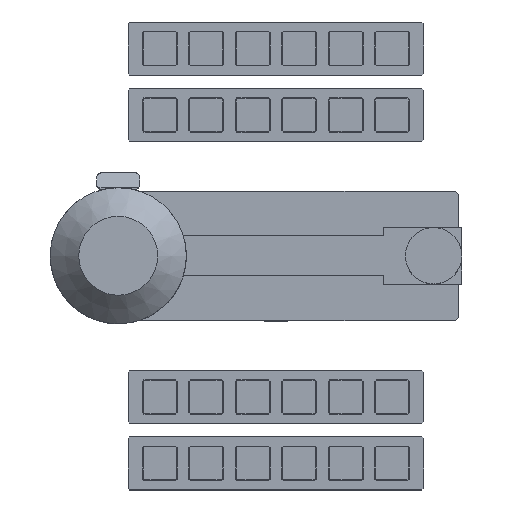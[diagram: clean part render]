
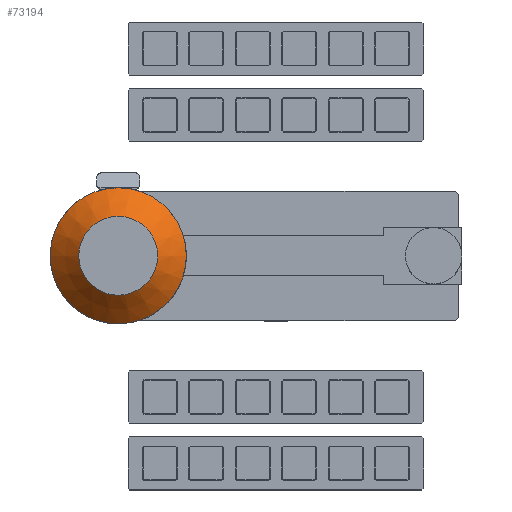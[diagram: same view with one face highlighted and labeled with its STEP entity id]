
A CAD part, top view. The second image highlights one B-rep face of the part: STEP entity #73194.
In plain terms, the highlighted conical face has half-angle 45 degrees and reference radius 41 mm.
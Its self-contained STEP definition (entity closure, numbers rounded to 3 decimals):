
#72256 = CYLINDRICAL_SURFACE('',#72257,41.);
#72257 = AXIS2_PLACEMENT_3D('',#72258,#72259,#72260);
#72258 = CARTESIAN_POINT('',(-95.,0.,8.4));
#72259 = DIRECTION('',(0.,0.,1.));
#72260 = DIRECTION('',(1.,0.,-0.));
#72336 = VERTEX_POINT('',#72337);
#72337 = CARTESIAN_POINT('',(-54.,0.,75.2));
#72358 = EDGE_CURVE('',#72359,#72336,#72361,.T.);
#72359 = VERTEX_POINT('',#72360);
#72360 = CARTESIAN_POINT('',(-95.,41.,75.2));
#72361 = SURFACE_CURVE('',#72362,(#72367,#72374),.PCURVE_S1.);
#72362 = CIRCLE('',#72363,41.);
#72363 = AXIS2_PLACEMENT_3D('',#72364,#72365,#72366);
#72364 = CARTESIAN_POINT('',(-95.,0.,75.2));
#72365 = DIRECTION('',(0.,0.,1.));
#72366 = DIRECTION('',(1.,0.,-0.));
#72367 = PCURVE('',#72256,#72368);
#72368 = DEFINITIONAL_REPRESENTATION('',(#72369),#72373);
#72369 = LINE('',#72370,#72371);
#72370 = CARTESIAN_POINT('',(0.,66.8));
#72371 = VECTOR('',#72372,1.);
#72372 = DIRECTION('',(1.,0.));
#72373 = ( GEOMETRIC_REPRESENTATION_CONTEXT(2) 
PARAMETRIC_REPRESENTATION_CONTEXT() REPRESENTATION_CONTEXT('2D SPACE',''
  ) );
#72374 = PCURVE('',#72375,#72380);
#72375 = CONICAL_SURFACE('',#72376,41.,0.785);
#72376 = AXIS2_PLACEMENT_3D('',#72377,#72378,#72379);
#72377 = CARTESIAN_POINT('',(-95.,0.,75.2));
#72378 = DIRECTION('',(-0.,-0.,-1.));
#72379 = DIRECTION('',(1.,0.,-0.));
#72380 = DEFINITIONAL_REPRESENTATION('',(#72381),#72384);
#72381 = B_SPLINE_CURVE_WITH_KNOTS('',1,(#72382,#72383),.UNSPECIFIED.,
  .F.,.F.,(2,2),(0.,6.283),.PIECEWISE_BEZIER_KNOTS.);
#72382 = CARTESIAN_POINT('',(0.,0.));
#72383 = CARTESIAN_POINT('',(-6.283,0.));
#72384 = ( GEOMETRIC_REPRESENTATION_CONTEXT(2) 
PARAMETRIC_REPRESENTATION_CONTEXT() REPRESENTATION_CONTEXT('2D SPACE',''
  ) );
#72386 = EDGE_CURVE('',#72336,#72359,#72387,.T.);
#72387 = SURFACE_CURVE('',#72388,(#72393,#72400),.PCURVE_S1.);
#72388 = CIRCLE('',#72389,41.);
#72389 = AXIS2_PLACEMENT_3D('',#72390,#72391,#72392);
#72390 = CARTESIAN_POINT('',(-95.,0.,75.2));
#72391 = DIRECTION('',(0.,0.,1.));
#72392 = DIRECTION('',(1.,0.,-0.));
#72393 = PCURVE('',#72256,#72394);
#72394 = DEFINITIONAL_REPRESENTATION('',(#72395),#72399);
#72395 = LINE('',#72396,#72397);
#72396 = CARTESIAN_POINT('',(0.,66.8));
#72397 = VECTOR('',#72398,1.);
#72398 = DIRECTION('',(1.,0.));
#72399 = ( GEOMETRIC_REPRESENTATION_CONTEXT(2) 
PARAMETRIC_REPRESENTATION_CONTEXT() REPRESENTATION_CONTEXT('2D SPACE',''
  ) );
#72400 = PCURVE('',#72375,#72401);
#72401 = DEFINITIONAL_REPRESENTATION('',(#72402),#72405);
#72402 = B_SPLINE_CURVE_WITH_KNOTS('',1,(#72403,#72404),.UNSPECIFIED.,
  .F.,.F.,(2,2),(0.,6.283),.PIECEWISE_BEZIER_KNOTS.);
#72403 = CARTESIAN_POINT('',(0.,0.));
#72404 = CARTESIAN_POINT('',(-6.283,0.));
#72405 = ( GEOMETRIC_REPRESENTATION_CONTEXT(2) 
PARAMETRIC_REPRESENTATION_CONTEXT() REPRESENTATION_CONTEXT('2D SPACE',''
  ) );
#73194 = ADVANCED_FACE('',(#73195),#72375,.T.);
#73195 = FACE_BOUND('',#73196,.T.);
#73196 = EDGE_LOOP('',(#73197,#73220,#73247,#73248,#73249));
#73197 = ORIENTED_EDGE('',*,*,#73198,.T.);
#73198 = EDGE_CURVE('',#72336,#73199,#73201,.T.);
#73199 = VERTEX_POINT('',#73200);
#73200 = CARTESIAN_POINT('',(-71.2,0.,92.4));
#73201 = SEAM_CURVE('',#73202,(#73206,#73213),.PCURVE_S1.);
#73202 = LINE('',#73203,#73204);
#73203 = CARTESIAN_POINT('',(-54.,0.,75.2));
#73204 = VECTOR('',#73205,1.);
#73205 = DIRECTION('',(-0.707,0.,0.707
    ));
#73206 = PCURVE('',#72375,#73207);
#73207 = DEFINITIONAL_REPRESENTATION('',(#73208),#73212);
#73208 = LINE('',#73209,#73210);
#73209 = CARTESIAN_POINT('',(-6.283,0.));
#73210 = VECTOR('',#73211,1.);
#73211 = DIRECTION('',(-0.,-1.));
#73212 = ( GEOMETRIC_REPRESENTATION_CONTEXT(2) 
PARAMETRIC_REPRESENTATION_CONTEXT() REPRESENTATION_CONTEXT('2D SPACE',''
  ) );
#73213 = PCURVE('',#72375,#73214);
#73214 = DEFINITIONAL_REPRESENTATION('',(#73215),#73219);
#73215 = LINE('',#73216,#73217);
#73216 = CARTESIAN_POINT('',(0.,-0.));
#73217 = VECTOR('',#73218,1.);
#73218 = DIRECTION('',(-0.,-1.));
#73219 = ( GEOMETRIC_REPRESENTATION_CONTEXT(2) 
PARAMETRIC_REPRESENTATION_CONTEXT() REPRESENTATION_CONTEXT('2D SPACE',''
  ) );
#73220 = ORIENTED_EDGE('',*,*,#73221,.F.);
#73221 = EDGE_CURVE('',#73199,#73199,#73222,.T.);
#73222 = SURFACE_CURVE('',#73223,(#73228,#73235),.PCURVE_S1.);
#73223 = CIRCLE('',#73224,23.8);
#73224 = AXIS2_PLACEMENT_3D('',#73225,#73226,#73227);
#73225 = CARTESIAN_POINT('',(-95.,0.,92.4));
#73226 = DIRECTION('',(0.,0.,1.));
#73227 = DIRECTION('',(1.,0.,-0.));
#73228 = PCURVE('',#72375,#73229);
#73229 = DEFINITIONAL_REPRESENTATION('',(#73230),#73234);
#73230 = LINE('',#73231,#73232);
#73231 = CARTESIAN_POINT('',(-0.,-17.2));
#73232 = VECTOR('',#73233,1.);
#73233 = DIRECTION('',(-1.,-0.));
#73234 = ( GEOMETRIC_REPRESENTATION_CONTEXT(2) 
PARAMETRIC_REPRESENTATION_CONTEXT() REPRESENTATION_CONTEXT('2D SPACE',''
  ) );
#73235 = PCURVE('',#73236,#73241);
#73236 = PLANE('',#73237);
#73237 = AXIS2_PLACEMENT_3D('',#73238,#73239,#73240);
#73238 = CARTESIAN_POINT('',(-95.,0.,92.4));
#73239 = DIRECTION('',(0.,0.,1.));
#73240 = DIRECTION('',(1.,0.,-0.));
#73241 = DEFINITIONAL_REPRESENTATION('',(#73242),#73246);
#73242 = CIRCLE('',#73243,23.8);
#73243 = AXIS2_PLACEMENT_2D('',#73244,#73245);
#73244 = CARTESIAN_POINT('',(0.,0.));
#73245 = DIRECTION('',(1.,0.));
#73246 = ( GEOMETRIC_REPRESENTATION_CONTEXT(2) 
PARAMETRIC_REPRESENTATION_CONTEXT() REPRESENTATION_CONTEXT('2D SPACE',''
  ) );
#73247 = ORIENTED_EDGE('',*,*,#73198,.F.);
#73248 = ORIENTED_EDGE('',*,*,#72386,.T.);
#73249 = ORIENTED_EDGE('',*,*,#72358,.T.);
